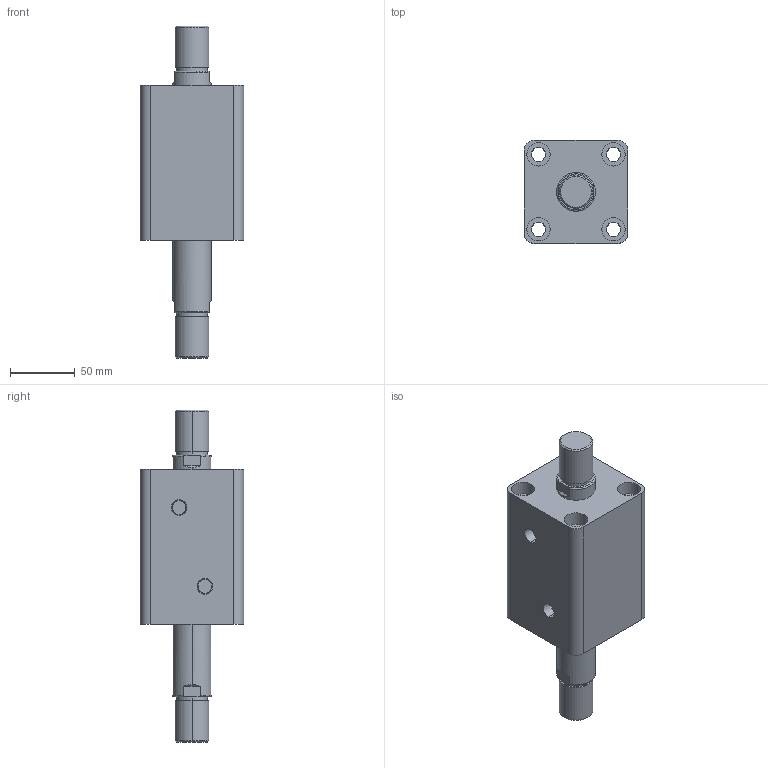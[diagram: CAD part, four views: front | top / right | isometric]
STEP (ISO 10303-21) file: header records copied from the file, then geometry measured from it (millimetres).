
FILE_DESCRIPTION (( 'STEP AP203' ), '1' );
FILE_NAME ('HTB-SW50-45W.STEP', '2019-10-07T09:20:38', ( '微软用户' ), ( '微软中国' ), 'SwSTEP 2.0', 'SolidWorks 2012', '' );
FILE_SCHEMA (( 'CONFIG_CONTROL_DESIGN' ));
Length unit declared in the file: millimetre
Products named in the file (3): HTB-SW50-45W; HTB-SW50-45W活塞杆; HTB-SW50-45掛极
Assembly tree (2 placements, depth 2):
  HTB-SW50-45W
    HTB-SW50-45掛极
    HTB-SW50-45W活塞杆
Bounding box: 80 x 80 x 257 mm (x, y, z)
Volume: 726643.4 mm3; surface area: 113100.7 mm2
Topology: 2 solids, 2 shells, 108 faces, 240 edges, 156 vertices
Faces by surface type: cylinder 52, plane 36, torus 12, cone 8
Entity records: 3449 total; most frequent: CARTESIAN_POINT 629, DIRECTION 586, ORIENTED_EDGE 480, AXIS2_PLACEMENT_3D 249, EDGE_CURVE 240, VERTEX_POINT 156, EDGE_LOOP 138, CIRCLE 136
